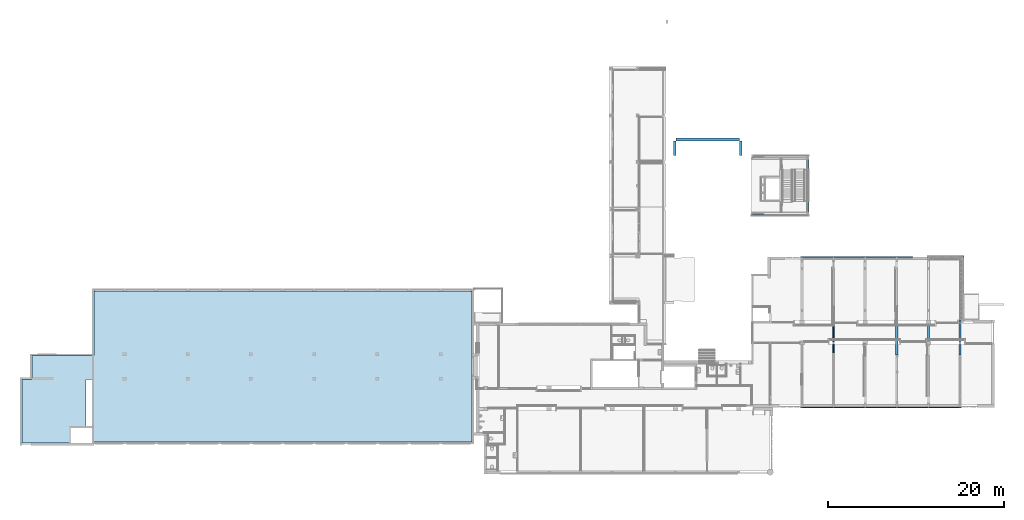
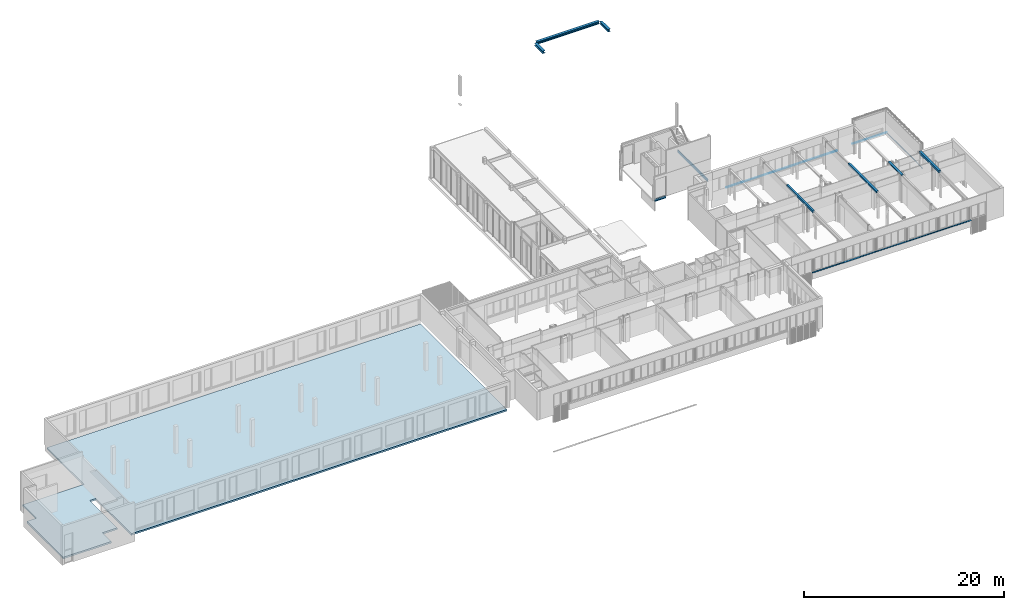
# One storey, part 22 of 99: 13 beams, 1 slab.
"""IFC2X3 building model written with IfcOpenShell, lengths in millimetres."""

from ifc_helpers import new_model, entity, si_unit, converted_unit, derived_unit, money_unit, direction, frame, origin_with_axes, place, context, subcontext, project, spatial, faceted_brep, material, type_object, element, save


model = new_model("IFC2X3")

# Units and contexts
model_context = context("Model", 3, precision=0.01, world=origin_with_axes(), true_north=direction((0.0, 1.0)))
body_context = subcontext(model_context, "Body", "Model", "MODEL_VIEW")
ifc_project = project(units=[si_unit("LENGTHUNIT", "METRE", prefix="MILLI"), si_unit("AREAUNIT", "SQUARE_METRE"), si_unit("VOLUMEUNIT", "CUBIC_METRE"), converted_unit("PLANEANGLEUNIT", "DEGREE", entity("IfcPlaneAngleMeasure", 0.0174532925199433), si_unit("PLANEANGLEUNIT", "RADIAN"), dimensions=[0, 0, 0, 0, 0, 0, 0]), money_unit("EUR"), converted_unit("TIMEUNIT", "Year", entity("IfcTimeMeasure", 31557600.0), si_unit("TIMEUNIT", "SECOND"), dimensions=[0, 0, 1, 0, 0, 0, 0]), si_unit("MASSUNIT", "GRAM", prefix="KILO"), si_unit("THERMODYNAMICTEMPERATUREUNIT", "DEGREE_CELSIUS"), si_unit("LUMINOUSINTENSITYUNIT", "LUMEN"), si_unit("ENERGYUNIT", "JOULE", prefix="MEGA"), derived_unit("THERMALCONDUCTANCEUNIT", [(si_unit("POWERUNIT", "WATT"), 1), (si_unit("LENGTHUNIT", "METRE"), -1), (si_unit("THERMODYNAMICTEMPERATUREUNIT", "KELVIN"), -1)]), derived_unit("SPECIFICHEATCAPACITYUNIT", [(si_unit("ENERGYUNIT", "JOULE"), 1), (si_unit("MASSUNIT", "GRAM", prefix="KILO"), -1), (si_unit("THERMODYNAMICTEMPERATUREUNIT", "KELVIN"), -1)]), derived_unit("MASSDENSITYUNIT", [(si_unit("MASSUNIT", "GRAM", prefix="KILO"), 1), (si_unit("VOLUMEUNIT", "CUBIC_METRE"), -1)])], contexts=[model_context])

# Site, building, storey
site_placement = place(None, origin_with_axes())
site = spatial("IfcSite", under=ifc_project, at=site_placement, Name="Site", CompositionType="ELEMENT")
building_placement = place(site_placement, origin_with_axes())
building = spatial("IfcBuilding", under=site, at=building_placement, Name="Naam gebouw", CompositionType="ELEMENT")
storey_placement = place(building_placement, frame((0.0, 0.0, 7650.0), z_axis=(0.0, 0.0, 1.0), x_axis=(1.0, 0.0, 0.0)))
storey = spatial("IfcBuildingStorey", under=building, at=storey_placement, Name="2e verdieping N", CompositionType="ELEMENT", Elevation=7650.0)

# Beams
ifc_material_1 = material(Name="Metaal - Aluminium")
beam_type_1 = type_object("IfcBeamType", Name="Lekdorpel 107 x 49", PredefinedType="BEAM")
beam_1_placement = place(storey_placement, frame((54330.00000000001, 27835.91242510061, 939.9999999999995), z_axis=(0.0, 0.0, 1.0), x_axis=(0.0, 1.0, 0.0)))
element("IfcBeam", 1, at=beam_1_placement, inside=storey, type_object=beam_type_1, material=ifc_material_1, Name="_Balk-x", ObjectType="BEAM", context=body_context, shape_type="Brep", body=[
    faceted_brep([(27.99999999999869, -28.0000000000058, -1.678199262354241), (27.99999999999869, 3930.000000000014, -1.678199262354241), (27.99999999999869, 3930.000000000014, -16.53589838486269), (27.99999999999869, -28.0000000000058, -16.53589838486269), (-77.00000000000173, 76.99999999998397, 16.83613371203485), (-76.99999999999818, 3930.000000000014, 16.83613371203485), (-76.99999999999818, 3930.000000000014, 28.51433297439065), (-74.99999999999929, 3930.000000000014, 28.51433297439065), (-74.99999999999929, 3930.000000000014, 18.51433297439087), (30.00000000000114, 3930.000000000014, 0.0), (30.00000000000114, 3930.000000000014, -19.99999999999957), (19.99999999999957, 3930.000000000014, -14.22649730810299), (19.99999999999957, 3930.000000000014, -11.91709623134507), (19.99999999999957, -20.00000000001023, -11.91709623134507), (19.99999999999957, -20.00000000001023, -14.22649730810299), (30.00000000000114, -30.00000000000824, -19.99999999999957), (30.00000000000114, -30.00000000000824, 0.0), (-74.99999999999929, 74.99999999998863, 18.51433297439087), (-74.99999999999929, 74.99999999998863, 28.51433297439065), (-77.00000000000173, 76.99999999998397, 28.51433297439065)], [[[0, 1, 2, 3]], [[4, 5, 1, 0]], [[2, 1, 5, 6, 7, 8, 9, 10, 11, 12]], [[3, 2, 12, 13]], [[4, 0, 3, 13, 14, 15, 16, 17, 18, 19]], [[19, 6, 5, 4]], [[18, 7, 6, 19]], [[17, 8, 7, 18]], [[16, 9, 8, 17]], [[15, 10, 9, 16]], [[14, 11, 10, 15]], [[13, 12, 11, 14]]]),
])
beam_2_placement = place(storey_placement, frame((35862.5, 10660.91242510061, 720.0000000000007), z_axis=(0.0, 0.0, 1.0), x_axis=(0.0, -1.0, 0.0)))
element("IfcBeam", 2, at=beam_2_placement, inside=storey, type_object=beam_type_1, material=ifc_material_1, Name="_Balk-x", ObjectType="BEAM", context=body_context, shape_type="Brep", body=[
    faceted_brep([(28.00000000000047, 0.0, -1.678199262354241), (27.99999999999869, 18274.99999999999, -1.678199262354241), (27.99999999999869, 18274.99999999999, -16.53589838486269), (28.00000000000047, 0.0, -16.53589838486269), (-76.99999999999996, 0.0, 16.83613371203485), (-77.00000000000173, 18274.99999999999, 16.83613371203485), (-77.00000000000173, 18274.99999999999, 28.51433297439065), (-75.00000000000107, 18274.99999999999, 28.51433297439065), (-75.00000000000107, 18274.99999999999, 18.51433297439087), (29.99999999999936, 18274.99999999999, 0.0), (29.99999999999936, 18274.99999999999, -19.99999999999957), (19.99999999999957, 18274.99999999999, -14.22649730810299), (19.99999999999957, 18274.99999999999, -11.91709623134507), (19.99999999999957, 0.0, -11.91709623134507), (19.99999999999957, 0.0, -14.22649730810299), (29.99999999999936, 0.0, -19.99999999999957), (29.99999999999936, 0.0, 0.0), (-74.99999999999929, 0.0, 18.51433297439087), (-74.99999999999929, 0.0, 28.51433297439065), (-76.99999999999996, 0.0, 28.51433297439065)], [[[0, 1, 2, 3]], [[4, 5, 1, 0]], [[2, 1, 5, 6, 7, 8, 9, 10, 11, 12]], [[3, 2, 12, 13]], [[4, 0, 3, 13, 14, 15, 16, 17, 18, 19]], [[19, 6, 5, 4]], [[18, 7, 6, 19]], [[17, 8, 7, 18]], [[16, 9, 8, 17]], [[15, 10, 9, 16]], [[14, 11, 10, 15]], [[13, 12, 11, 14]]]),
])
beam_3_placement = place(storey_placement, frame((54330.00000000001, 20655.9124251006, 939.9999999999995), z_axis=(0.0, 0.0, 1.0), x_axis=(1.0, 0.0, 0.0)))
element("IfcBeam", 3, at=beam_3_placement, inside=storey, type_object=beam_type_1, material=ifc_material_1, Name="_Balk-x", ObjectType="BEAM", context=body_context, shape_type="Brep", body=[
    faceted_brep([(27.99999999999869, 0.0, -1.678199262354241), (27.99999999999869, 7207.999999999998, -1.678199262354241), (27.99999999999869, 7207.999999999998, -16.53589838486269), (27.99999999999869, 0.0, -16.53589838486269), (-76.99999999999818, 0.0, 16.83613371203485), (-76.99999999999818, 7102.999999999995, 16.83613371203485), (-76.99999999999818, 7102.999999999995, 28.51433297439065), (-75.00000000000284, 7104.999999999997, 28.51433297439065), (-75.00000000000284, 7104.999999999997, 18.51433297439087), (30.00000000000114, 7209.999999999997, 0.0), (30.00000000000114, 7209.999999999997, -19.99999999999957), (20.00000000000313, 7199.999999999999, -14.22649730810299), (20.00000000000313, 7199.999999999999, -11.91709623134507), (20.00000000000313, 0.0, -11.91709623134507), (20.00000000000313, 0.0, -14.22649730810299), (30.00000000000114, 0.0, -19.99999999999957), (30.00000000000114, 0.0, 0.0), (-75.00000000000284, 0.0, 18.51433297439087), (-75.00000000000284, 0.0, 28.51433297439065), (-76.99999999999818, 0.0, 28.51433297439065)], [[[0, 1, 2, 3]], [[4, 5, 1, 0]], [[2, 1, 5, 6, 7, 8, 9, 10, 11, 12]], [[3, 2, 12, 13]], [[4, 0, 3, 13, 14, 15, 16, 17, 18, 19]], [[19, 6, 5, 4]], [[18, 7, 6, 19]], [[17, 8, 7, 18]], [[16, 9, 8, 17]], [[15, 10, 9, 16]], [[14, 11, 10, 15]], [[13, 12, 11, 14]]]),
])
beam_4_placement = place(storey_placement, frame((48601.18090496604, 27835.91242510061, 719.9999999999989), z_axis=(0.0, 0.0, 1.0), x_axis=(0.0, 1.0, 0.0)))
element("IfcBeam", 4, at=beam_4_placement, inside=storey, type_object=beam_type_1, material=ifc_material_1, Name="_Balk-x", ObjectType="BEAM", context=body_context, shape_type="Brep", body=[
    faceted_brep([(27.99999999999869, 0.0, -1.678199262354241), (28.00000000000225, 12738.68090496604, -1.678199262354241), (28.00000000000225, 12738.68090496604, -16.53589838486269), (27.99999999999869, 0.0, -16.53589838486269), (-77.00000000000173, 0.0, 16.83613371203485), (-76.99999999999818, 12738.68090496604, 16.83613371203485), (-76.99999999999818, 12738.68090496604, 28.51433297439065), (-74.99999999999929, 12738.68090496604, 28.51433297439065), (-74.99999999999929, 12738.68090496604, 18.51433297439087), (30.00000000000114, 12738.68090496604, 0.0), (30.00000000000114, 12738.68090496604, -19.99999999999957), (19.99999999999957, 12738.68090496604, -14.22649730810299), (19.99999999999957, 12738.68090496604, -11.91709623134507), (19.99999999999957, 0.0, -11.91709623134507), (19.99999999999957, 0.0, -14.22649730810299), (30.00000000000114, 0.0, -19.99999999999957), (30.00000000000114, 0.0, 0.0), (-74.99999999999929, 0.0, 18.51433297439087), (-74.99999999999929, 0.0, 28.51433297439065), (-77.00000000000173, 0.0, 28.51433297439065)], [[[0, 1, 2, 3]], [[4, 5, 1, 0]], [[2, 1, 5, 6, 7, 8, 9, 10, 11, 12]], [[3, 2, 12, 13]], [[4, 0, 3, 13, 14, 15, 16, 17, 18, 19]], [[19, 6, 5, 4]], [[18, 7, 6, 19]], [[17, 8, 7, 18]], [[16, 9, 8, 17]], [[15, 10, 9, 16]], [[14, 11, 10, 15]], [[13, 12, 11, 14]]]),
])
ifc_material_2 = material(Name="staal")
beam_type_2 = type_object("IfcBeamType", Name="NLRS_28_SF_staal - balk - UNP:UNP300", PredefinedType="BEAM")
beam_5_placement = place(storey_placement, frame((36706.66666671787, 38965.91242629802, -1879.999999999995), z_axis=(0.0, 0.0, 1.0), x_axis=(-1.0, 0.0, 0.0)))
element("IfcBeam", 5, at=beam_5_placement, inside=storey, type_object=beam_type_2, material=ifc_material_2, Name="NLRS_28_SF_staal - balk - UNP:UNP300", ObjectType="BEAM", context=body_context, shape_type="Brep", body=[
    faceted_brep([(-45.33333333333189, 0.0, 150.0000000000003), (-45.33333333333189, 6039.999999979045, 150.0000000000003), (-45.33333333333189, 6039.999999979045, 144.0999999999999), (-45.33333333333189, 0.0, 144.0999999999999), (54.66666666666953, 0.0, 150.0000000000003), (54.66666666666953, 6039.999999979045, 150.0000000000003), (54.66666666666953, 6039.999999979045, -150.0000000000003), (-45.33333333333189, 6039.999999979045, -150.0000000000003), (-45.33333333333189, 6039.999999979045, -144.0999999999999), (-42.99018758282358, 6039.999999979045, -138.4431457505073), (-37.33333333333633, 6039.999999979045, -136.0999999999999), (28.66666666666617, 6039.999999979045, -132.8000000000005), (36.66666666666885, 6039.999999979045, -130.6564064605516), (42.52307312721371, 6039.999999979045, -124.8000000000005), (44.66666666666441, 6039.999999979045, -116.8000000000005), (44.66666666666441, 6039.999999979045, 116.7999999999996), (42.52307312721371, 6039.999999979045, 124.7999999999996), (36.66666666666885, 6039.999999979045, 130.6564064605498), (28.66666666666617, 6039.999999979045, 132.7999999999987), (-37.33333333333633, 6039.999999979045, 136.1000000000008), (-42.99018758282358, 6039.999999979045, 138.4431457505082), (-42.99018758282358, 0.0, 138.4431457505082), (-37.33333333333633, 0.0, 136.1000000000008), (28.66666666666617, 0.0, 132.7999999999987), (36.66666666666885, 0.0, 130.6564064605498), (42.52307312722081, 0.0, 124.7999999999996), (44.66666666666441, 0.0, 116.7999999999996), (44.66666666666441, 0.0, -116.8000000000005), (42.52307312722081, 0.0, -124.8000000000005), (36.66666666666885, 0.0, -130.6564064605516), (28.66666666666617, 0.0, -132.8000000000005), (-37.33333333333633, 0.0, -136.0999999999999), (-42.99018758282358, 0.0, -138.4431457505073), (-45.33333333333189, 0.0, -144.0999999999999), (-45.33333333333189, 0.0, -150.0000000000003), (54.66666666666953, 0.0, -150.0000000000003)], [[[0, 1, 2, 3]], [[4, 5, 1, 0]], [[2, 1, 5, 6, 7, 8, 9, 10, 11, 12, 13, 14, 15, 16, 17, 18, 19, 20]], [[3, 2, 20, 21]], [[4, 0, 3, 21, 22, 23, 24, 25, 26, 27, 28, 29, 30, 31, 32, 33, 34, 35]], [[35, 6, 5, 4]], [[34, 7, 6, 35]], [[33, 8, 7, 34]], [[32, 9, 8, 33]], [[31, 10, 9, 32]], [[30, 11, 10, 31]], [[29, 12, 11, 30]], [[28, 13, 12, 29]], [[27, 14, 13, 28]], [[26, 15, 14, 27]], [[25, 16, 15, 26]], [[24, 17, 16, 25]], [[23, 18, 17, 24]], [[22, 19, 18, 23]], [[21, 20, 19, 22]]]),
])
beam_6_placement = place(storey_placement, frame((31685.00219855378, 32657.24606858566, -1879.999999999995), z_axis=(0.0, 0.0, 1.0), x_axis=(0.0, 1.0, 0.0)))
element("IfcBeam", 6, at=beam_6_placement, inside=storey, type_object=beam_type_2, material=ifc_material_2, Name="NLRS_28_SF_staal - balk - UNP:UNP300", ObjectType="BEAM", context=body_context, shape_type="Brep", body=[
    faceted_brep([(-45.33333333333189, 0.0, 150.0000000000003), (-45.33333333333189, 1294.002198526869, 150.0000000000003), (-45.33333333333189, 1294.002198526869, 144.0999999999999), (-45.33333333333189, 0.0, 144.0999999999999), (54.66666666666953, 0.0, 150.0000000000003), (54.66666666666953, 1294.002198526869, 150.0000000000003), (54.66666666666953, 1294.002198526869, -150.0000000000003), (-45.33333333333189, 1294.002198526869, -150.0000000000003), (-45.33333333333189, 1294.002198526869, -144.0999999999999), (-42.99018758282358, 1294.002198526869, -138.4431457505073), (-37.33333333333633, 1294.002198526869, -136.0999999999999), (28.66666666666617, 1294.002198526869, -132.8000000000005), (36.66666666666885, 1294.002198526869, -130.6564064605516), (42.52307312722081, 1294.002198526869, -124.8000000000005), (44.66666666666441, 1294.002198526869, -116.8000000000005), (44.66666666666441, 1294.002198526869, 116.7999999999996), (42.52307312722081, 1294.002198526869, 124.7999999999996), (36.66666666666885, 1294.002198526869, 130.6564064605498), (28.66666666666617, 1294.002198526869, 132.7999999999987), (-37.33333333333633, 1294.002198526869, 136.1000000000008), (-42.99018758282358, 1294.002198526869, 138.4431457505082), (-42.99018758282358, 0.0, 138.4431457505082), (-37.33333333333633, 0.0, 136.1000000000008), (28.66666666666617, 0.0, 132.7999999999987), (36.66666666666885, 0.0, 130.6564064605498), (42.52307312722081, 0.0, 124.7999999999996), (44.66666666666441, 0.0, 116.7999999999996), (44.66666666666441, 0.0, -116.8000000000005), (42.52307312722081, 0.0, -124.8000000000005), (36.66666666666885, 0.0, -130.6564064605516), (28.66666666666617, 0.0, -132.8000000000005), (-37.33333333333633, 0.0, -136.0999999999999), (-42.99018758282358, 0.0, -138.4431457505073), (-45.33333333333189, 0.0, -144.0999999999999), (-45.33333333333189, 0.0, -150.0000000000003), (54.66666666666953, 0.0, -150.0000000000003)], [[[0, 1, 2, 3]], [[4, 5, 1, 0]], [[2, 1, 5, 6, 7, 8, 9, 10, 11, 12, 13, 14, 15, 16, 17, 18, 19, 20]], [[3, 2, 20, 21]], [[4, 0, 3, 21, 22, 23, 24, 25, 26, 27, 28, 29, 30, 31, 32, 33, 34, 35]], [[35, 6, 5, 4]], [[34, 7, 6, 35]], [[33, 8, 7, 34]], [[32, 9, 8, 33]], [[31, 10, 9, 32]], [[30, 11, 10, 31]], [[29, 12, 11, 30]], [[28, 13, 12, 29]], [[27, 14, 13, 28]], [[26, 15, 14, 27]], [[25, 16, 15, 26]], [[24, 17, 16, 25]], [[23, 18, 17, 24]], [[22, 19, 18, 23]], [[21, 20, 19, 22]]]),
])
ifc_material_3 = material(Name="ALG - CONSTRUCTIEF KOLOM")
beam_type_3 = type_object("IfcBeamType", Name="ALG - CONSTRUCTIEF KOLOM 250 x 250", PredefinedType="BEAM")
beam_7_placement = place(storey_placement, frame((50399.99999999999, 20575.91242510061, 3299.999999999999), z_axis=(0.0, 0.0, 1.0), x_axis=(-1.0, 0.0, 0.0)))
element("IfcBeam", 7, at=beam_7_placement, inside=storey, type_object=beam_type_3, material=ifc_material_3, Name="_Balk-x", ObjectType="BEAM", context=body_context, shape_type="Brep", body=[
    faceted_brep([(125.0, 0.0, -250.0000000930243), (125.0, 0.0, -100.0000000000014), (-125.0, 0.0, -100.0000000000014), (-125.0, 0.0, -250.0000000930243), (125.0, 2705.000000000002, -250.0000000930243), (125.0, 2705.000000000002, -100.0000000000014), (-125.0, 2705.000000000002, -100.0000000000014), (-125.0, 2705.000000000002, -250.0000000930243)], [[[0, 1, 2, 3]], [[4, 5, 1, 0]], [[5, 6, 2, 1]], [[3, 2, 6, 7]], [[0, 3, 7, 4]], [[7, 6, 5, 4]]]),
])
ifc_material_4 = material(Name="staal geanodiseerd RAL 7024")
beam_type_4 = type_object("IfcBeamType", Name="NLRS_28_SF_LIB_balk HE_generiek_ISR:balk HE_gen_HEB300", PredefinedType="BEAM")
beam_8_placement = place(storey_placement, frame((29019.50000004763, 39369.91242633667, 15199.99999999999), z_axis=(0.0, 0.0, 1.0), x_axis=(1.0, 0.0, 0.0)))
element("IfcBeam", 8, at=beam_8_placement, inside=storey, type_object=beam_type_4, material=ifc_material_4, Name="NLRS_28_SF_LIB_balk HE_generiek_ISR:balk HE_gen_HEB300", ObjectType="BEAM", context=body_context, shape_type="Brep", body=[
    faceted_brep([(-150.0000000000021, 0.0, 150.0000000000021), (-150.0000000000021, 1673.999999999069, 150.0000000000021), (-150.0000000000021, 1673.999999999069, 131.0000000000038), (-150.0000000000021, 0.0, 131.0000000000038), (149.9999999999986, 0.0, 150.0000000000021), (149.9999999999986, 1673.999999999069, 150.0000000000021), (149.9999999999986, 1673.999999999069, 131.0000000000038), (32.50000000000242, 1673.999999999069, 131.0000000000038), (19.0000000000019, 1673.999999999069, 127.3826859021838), (9.11731409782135, 1673.999999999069, 117.4999999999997), (5.49999999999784, 1673.999999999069, 103.9999999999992), (5.49999999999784, 1673.999999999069, -103.9999999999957), (9.11731409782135, 1673.999999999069, -117.4999999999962), (19.0000000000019, 1673.999999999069, -127.3826859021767), (32.50000000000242, 1673.999999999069, -130.9999999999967), (149.9999999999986, 1673.999999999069, -130.9999999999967), (149.9999999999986, 1673.999999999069, -149.9999999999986), (-150.0000000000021, 1673.999999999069, -149.9999999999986), (-150.0000000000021, 1673.999999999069, -130.9999999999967), (-32.50000000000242, 1673.999999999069, -130.9999999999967), (-19.0000000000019, 1673.999999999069, -127.3826859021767), (-9.11731409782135, 1673.999999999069, -117.4999999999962), (-5.500000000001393, 1673.999999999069, -103.9999999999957), (-5.500000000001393, 1673.999999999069, 103.9999999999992), (-9.11731409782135, 1673.999999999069, 117.4999999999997), (-19.0000000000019, 1673.999999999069, 127.3826859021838), (-32.50000000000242, 1673.999999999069, 131.0000000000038), (-32.50000000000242, 0.0, 131.0000000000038), (-19.0000000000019, 0.0, 127.3826859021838), (-9.11731409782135, 0.0, 117.4999999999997), (-5.500000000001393, 0.0, 103.9999999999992), (-5.500000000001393, 0.0, -103.9999999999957), (-9.11731409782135, 0.0, -117.4999999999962), (-19.0000000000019, 0.0, -127.3826859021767), (-32.50000000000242, 0.0, -130.9999999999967), (-150.0000000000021, 0.0, -130.9999999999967), (-150.0000000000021, 0.0, -149.9999999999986), (149.9999999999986, 0.0, -149.9999999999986), (149.9999999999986, 0.0, -130.9999999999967), (32.50000000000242, 0.0, -130.9999999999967), (19.0000000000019, 0.0, -127.3826859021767), (9.11731409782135, 0.0, -117.4999999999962), (5.49999999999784, 0.0, -103.9999999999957), (5.49999999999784, 0.0, 103.9999999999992), (9.11731409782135, 0.0, 117.4999999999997), (19.0000000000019, 0.0, 127.3826859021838), (32.50000000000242, 0.0, 131.0000000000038), (149.9999999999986, 0.0, 131.0000000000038)], [[[0, 1, 2, 3]], [[4, 5, 1, 0]], [[2, 1, 5, 6, 7, 8, 9, 10, 11, 12, 13, 14, 15, 16, 17, 18, 19, 20, 21, 22, 23, 24, 25, 26]], [[3, 2, 26, 27]], [[4, 0, 3, 27, 28, 29, 30, 31, 32, 33, 34, 35, 36, 37, 38, 39, 40, 41, 42, 43, 44, 45, 46, 47]], [[47, 6, 5, 4]], [[46, 7, 6, 47]], [[45, 8, 7, 46]], [[44, 9, 8, 45]], [[43, 10, 9, 44]], [[42, 11, 10, 43]], [[41, 12, 11, 42]], [[40, 13, 12, 41]], [[39, 14, 13, 40]], [[38, 15, 14, 39]], [[37, 16, 15, 38]], [[36, 17, 16, 37]], [[35, 18, 17, 36]], [[34, 19, 18, 35]], [[33, 20, 19, 34]], [[32, 21, 20, 33]], [[31, 22, 21, 32]], [[30, 23, 22, 31]], [[29, 24, 23, 30]], [[28, 25, 24, 29]], [[27, 26, 25, 28]]]),
])
beam_9_placement = place(storey_placement, frame((21513.00000002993, 39369.91242627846, 15199.99999999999), z_axis=(0.0, 0.0, 1.0), x_axis=(1.0, 0.0, 0.0)))
element("IfcBeam", 9, at=beam_9_placement, inside=storey, type_object=beam_type_4, material=ifc_material_4, Name="NLRS_28_SF_LIB_balk HE_generiek_ISR:balk HE_gen_HEB300", ObjectType="BEAM", context=body_context, shape_type="Brep", body=[
    faceted_brep([(-150.0000000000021, 0.0, 150.0000000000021), (-150.0000000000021, 1673.999999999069, 150.0000000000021), (-150.0000000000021, 1673.999999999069, 131.0000000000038), (-150.0000000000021, 0.0, 131.0000000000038), (149.9999999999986, 0.0, 150.0000000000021), (149.9999999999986, 1673.999999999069, 150.0000000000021), (149.9999999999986, 1673.999999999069, 131.0000000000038), (32.50000000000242, 1673.999999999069, 131.0000000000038), (19.0000000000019, 1673.999999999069, 127.3826859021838), (9.11731409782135, 1673.999999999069, 117.4999999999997), (5.49999999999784, 1673.999999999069, 103.9999999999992), (5.49999999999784, 1673.999999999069, -103.9999999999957), (9.11731409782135, 1673.999999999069, -117.4999999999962), (19.0000000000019, 1673.999999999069, -127.3826859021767), (32.50000000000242, 1673.999999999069, -130.9999999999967), (149.9999999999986, 1673.999999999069, -130.9999999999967), (149.9999999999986, 1673.999999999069, -149.9999999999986), (-150.0000000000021, 1673.999999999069, -149.9999999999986), (-150.0000000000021, 1673.999999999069, -130.9999999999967), (-32.50000000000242, 1673.999999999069, -130.9999999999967), (-19.0000000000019, 1673.999999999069, -127.3826859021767), (-9.11731409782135, 1673.999999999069, -117.4999999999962), (-5.500000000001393, 1673.999999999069, -103.9999999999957), (-5.500000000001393, 1673.999999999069, 103.9999999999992), (-9.11731409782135, 1673.999999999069, 117.4999999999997), (-19.0000000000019, 1673.999999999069, 127.3826859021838), (-32.50000000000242, 1673.999999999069, 131.0000000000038), (-32.50000000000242, 0.0, 131.0000000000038), (-19.0000000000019, 0.0, 127.3826859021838), (-9.11731409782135, 0.0, 117.4999999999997), (-5.500000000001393, 0.0, 103.9999999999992), (-5.500000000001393, 0.0, -103.9999999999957), (-9.11731409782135, 0.0, -117.4999999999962), (-19.0000000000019, 0.0, -127.3826859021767), (-32.50000000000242, 0.0, -130.9999999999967), (-150.0000000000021, 0.0, -130.9999999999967), (-150.0000000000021, 0.0, -149.9999999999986), (149.9999999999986, 0.0, -149.9999999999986), (149.9999999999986, 0.0, -130.9999999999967), (32.50000000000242, 0.0, -130.9999999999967), (19.0000000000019, 0.0, -127.3826859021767), (9.11731409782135, 0.0, -117.4999999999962), (5.49999999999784, 0.0, -103.9999999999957), (5.49999999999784, 0.0, 103.9999999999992), (9.11731409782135, 0.0, 117.4999999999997), (19.0000000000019, 0.0, 127.3826859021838), (32.50000000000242, 0.0, 131.0000000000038), (149.9999999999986, 0.0, 131.0000000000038)], [[[0, 1, 2, 3]], [[4, 5, 1, 0]], [[2, 1, 5, 6, 7, 8, 9, 10, 11, 12, 13, 14, 15, 16, 17, 18, 19, 20, 21, 22, 23, 24, 25, 26]], [[3, 2, 26, 27]], [[4, 0, 3, 27, 28, 29, 30, 31, 32, 33, 34, 35, 36, 37, 38, 39, 40, 41, 42, 43, 44, 45, 46, 47]], [[47, 6, 5, 4]], [[46, 7, 6, 47]], [[45, 8, 7, 46]], [[44, 9, 8, 45]], [[43, 10, 9, 44]], [[42, 11, 10, 43]], [[41, 12, 11, 42]], [[40, 13, 12, 41]], [[39, 14, 13, 40]], [[38, 15, 14, 39]], [[37, 16, 15, 38]], [[36, 17, 16, 37]], [[35, 18, 17, 36]], [[34, 19, 18, 35]], [[33, 20, 19, 34]], [[32, 21, 20, 33]], [[31, 22, 21, 32]], [[30, 23, 22, 31]], [[29, 24, 23, 30]], [[28, 25, 24, 29]], [[27, 26, 25, 28]]]),
])
beam_10_placement = place(storey_placement, frame((21662.99999999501, 41193.91242635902, 15199.99999999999), z_axis=(0.0, 0.0, 1.0), x_axis=(0.0, -1.0, 0.0)))
element("IfcBeam", 10, at=beam_10_placement, inside=storey, type_object=beam_type_4, material=ifc_material_4, Name="NLRS_28_SF_LIB_balk HE_generiek_ISR:balk HE_gen_HEB300", ObjectType="BEAM", context=body_context, shape_type="Brep", body=[
    faceted_brep([(-149.9999999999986, 0.0, 150.0000000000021), (-149.9999999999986, 7206.500000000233, 150.0000000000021), (-149.9999999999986, 7206.500000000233, 131.0000000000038), (-149.9999999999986, 0.0, 131.0000000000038), (149.9999999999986, 0.0, 150.0000000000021), (149.9999999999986, 7206.500000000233, 150.0000000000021), (149.9999999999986, 7206.500000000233, 131.0000000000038), (32.49999999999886, 7206.500000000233, 131.0000000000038), (18.99999999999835, 7206.500000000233, 127.3826859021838), (9.11731409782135, 7206.500000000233, 117.4999999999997), (5.49999999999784, 7206.500000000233, 103.9999999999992), (5.49999999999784, 7206.500000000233, -103.9999999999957), (9.11731409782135, 7206.500000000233, -117.4999999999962), (18.99999999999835, 7206.500000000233, -127.3826859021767), (32.49999999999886, 7206.500000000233, -130.9999999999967), (149.9999999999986, 7206.500000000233, -130.9999999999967), (149.9999999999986, 7206.500000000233, -149.9999999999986), (-149.9999999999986, 7206.500000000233, -149.9999999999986), (-149.9999999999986, 7206.500000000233, -130.9999999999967), (-32.50000000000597, 7206.500000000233, -130.9999999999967), (-19.00000000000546, 7206.500000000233, -127.3826859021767), (-9.11731409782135, 7206.500000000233, -117.4999999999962), (-5.49999999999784, 7206.500000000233, -103.9999999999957), (-5.49999999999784, 7206.500000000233, 103.9999999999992), (-9.11731409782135, 7206.500000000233, 117.4999999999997), (-19.00000000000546, 7206.500000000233, 127.3826859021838), (-32.50000000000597, 7206.500000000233, 131.0000000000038), (-32.50000000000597, 0.0, 131.0000000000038), (-18.99999999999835, 0.0, 127.3826859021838), (-9.11731409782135, 0.0, 117.4999999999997), (-5.49999999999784, 0.0, 103.9999999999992), (-5.49999999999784, 0.0, -103.9999999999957), (-9.11731409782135, 0.0, -117.4999999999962), (-18.99999999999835, 0.0, -127.3826859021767), (-32.50000000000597, 0.0, -130.9999999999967), (-149.9999999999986, 0.0, -130.9999999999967), (-149.9999999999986, 0.0, -149.9999999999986), (149.9999999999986, 0.0, -149.9999999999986), (149.9999999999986, 0.0, -130.9999999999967), (32.49999999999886, 0.0, -130.9999999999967), (18.99999999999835, 0.0, -127.3826859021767), (9.11731409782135, 0.0, -117.4999999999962), (5.49999999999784, 0.0, -103.9999999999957), (5.49999999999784, 0.0, 103.9999999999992), (9.11731409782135, 0.0, 117.4999999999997), (18.99999999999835, 0.0, 127.3826859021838), (32.49999999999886, 0.0, 131.0000000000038), (149.9999999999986, 0.0, 131.0000000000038)], [[[0, 1, 2, 3]], [[4, 5, 1, 0]], [[2, 1, 5, 6, 7, 8, 9, 10, 11, 12, 13, 14, 15, 16, 17, 18, 19, 20, 21, 22, 23, 24, 25, 26]], [[3, 2, 26, 27]], [[4, 0, 3, 27, 28, 29, 30, 31, 32, 33, 34, 35, 36, 37, 38, 39, 40, 41, 42, 43, 44, 45, 46, 47]], [[47, 6, 5, 4]], [[46, 7, 6, 47]], [[45, 8, 7, 46]], [[44, 9, 8, 45]], [[43, 10, 9, 44]], [[42, 11, 10, 43]], [[41, 12, 11, 42]], [[40, 13, 12, 41]], [[39, 14, 13, 40]], [[38, 15, 14, 39]], [[37, 16, 15, 38]], [[36, 17, 16, 37]], [[35, 18, 17, 36]], [[34, 19, 18, 35]], [[33, 20, 19, 34]], [[32, 21, 20, 33]], [[31, 22, 21, 32]], [[30, 23, 22, 31]], [[29, 24, 23, 30]], [[28, 25, 24, 29]], [[27, 26, 25, 28]]]),
])
beam_type_5 = type_object("IfcBeamType", Name="ALG - CONSTRUCTIEF KOLOM 250 x 290", PredefinedType="BEAM")
beam_11_placement = place(storey_placement, frame((54000.0, 20575.91242510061, 3199.999999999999), z_axis=(0.0, 0.0, 1.0), x_axis=(-1.0, 0.0, 0.0)))
element("IfcBeam", 11, at=beam_11_placement, inside=storey, type_object=beam_type_5, material=ifc_material_3, Name="_Balk-x", ObjectType="BEAM", context=body_context, shape_type="Brep", body=[
    faceted_brep([(125.0, 0.0, -290.0021947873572), (-125.0, 0.0, -290.0021947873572), (-125.0, 3930.0, -290.0021947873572), (125.0, 3930.0, -290.0021947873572), (125.0, 0.0, 0.0), (-125.0, 0.0, 0.0), (-125.0, 3930.0, 0.0), (125.0, 3930.0, 0.0)], [[[0, 1, 2, 3]], [[4, 5, 1, 0]], [[1, 5, 6, 2]], [[7, 3, 2, 6]], [[4, 0, 3, 7]], [[5, 4, 7, 6]]]),
])
beam_type_6 = type_object("IfcBeamType", Name="ALG - CONSTRUCTIEF KOLOM 200 x 250", PredefinedType="BEAM")
beam_12_placement = place(storey_placement, frame((39599.99999999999, 22175.91242510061, 3199.999999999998), z_axis=(0.0, 0.0, 1.0), x_axis=(-1.0, 0.0, 0.0)))
element("IfcBeam", 12, at=beam_12_placement, inside=storey, type_object=beam_type_6, material=ifc_material_3, Name="_Balk-x", ObjectType="BEAM", context=body_context, shape_type="Brep", body=[
    faceted_brep([(100.0000000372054, 5320.000000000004, -250.0), (100.0000000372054, 0.0, -250.0), (-100.0000000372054, 0.0, -250.0), (-100.0000000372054, 5320.000000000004, -250.0), (100.0000000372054, 5320.000000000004, 0.0), (100.0000000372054, 0.0, 0.0), (-100.0000000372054, 0.0, 0.0), (-100.0000000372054, 5320.000000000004, 0.0)], [[[0, 1, 2, 3]], [[4, 5, 1, 0]], [[1, 5, 6, 2]], [[3, 2, 6, 7]], [[7, 4, 0, 3]], [[7, 6, 5, 4]]]),
])
beam_type_7 = type_object("IfcBeamType", Name="ALG - CONSTRUCTIEF KOLOM 250 x 200", PredefinedType="BEAM")
beam_13_placement = place(storey_placement, frame((46800.00000000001, 22330.91242510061, 3199.999999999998), z_axis=(0.0, 0.0, 1.0), x_axis=(-1.0, 0.0, 0.0)))
element("IfcBeam", 13, at=beam_13_placement, inside=storey, type_object=beam_type_7, material=ifc_material_3, Name="_Balk-x", ObjectType="BEAM", context=body_context, shape_type="Brep", body=[
    faceted_brep([(125.0, 5685.000000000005, -199.9999999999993), (125.0, 0.0, -199.9999999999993), (-125.0, 0.0, -199.9999999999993), (-125.0, 5685.000000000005, -199.9999999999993), (125.0, 5685.000000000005, 0.0), (125.0, 0.0, 0.0), (-125.0, 0.0, 0.0), (-125.0, 5685.000000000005, 0.0)], [[[0, 1, 2, 3]], [[4, 5, 1, 0]], [[1, 5, 6, 2]], [[3, 2, 6, 7]], [[7, 4, 0, 3]], [[7, 6, 5, 4]]]),
])

# Slab
ifc_material_5 = material(Name="ALG - CONSTRUCTIEF VLOER")
slab_type = type_object("IfcSlabType", Name="ALG Vloer 200", PredefinedType="NOTDEFINED")
slab_placement = place(storey_placement, frame((-52799.99999994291, 6621.652687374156, -459.9999999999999), z_axis=(0.0, 0.0, 1.0), x_axis=(1.0, 0.0, 0.0)))
element("IfcSlab", 14, at=slab_placement, inside=storey, type_object=slab_type, material=ifc_material_5, Name="_Vloer-x", PredefinedType="NOTDEFINED", context=body_context, shape_type="Brep", body=[
    faceted_brep([(0.0, 0.0, 0.0), (0.0, 0.0, -200.0000000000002), (5549.999999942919, -6.077662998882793, -200.0000000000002), (5549.999999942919, -6.077662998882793, 0.0), (-6.022560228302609e-08, 7243.922336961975, 0.0), (-6.022560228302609e-08, 7243.922336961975, -200.0000000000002), (1099.999999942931, 7243.92233697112, -200.0000000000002), (1099.999999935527, 9968.922336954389, -200.0000000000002), (8149.999999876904, 9968.922337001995, -200.0000000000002), (8149.999999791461, 17343.92233700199, -200.0000000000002), (51199.9999999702, 17343.92233700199, -200.0000000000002), (51200.0000192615, 143.9389468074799, -200.0000000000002), (7949.966397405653, 143.8871063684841, -200.0000000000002), (7955.394274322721, 7243.922350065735, -200.0000000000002), (7249.999858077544, 7243.922331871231, -200.0000000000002), (7249.999999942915, 1743.852526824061, -200.0000000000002), (5549.999917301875, 1743.852431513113, -200.0000000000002), (5549.999917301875, 1743.852431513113, 0.0), (7249.999999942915, 1743.852526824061, 0.0), (7249.999858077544, 7243.922331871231, 0.0), (7955.394274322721, 7243.922350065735, 0.0), (7949.966397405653, 143.8871063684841, 0.0), (51200.0000192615, 143.9389468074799, 0.0), (51199.9999999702, 17343.92233700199, 0.0), (8149.999999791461, 17343.92233700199, 0.0), (8149.999999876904, 9968.922337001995, 0.0), (1099.999999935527, 9968.922336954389, 0.0), (1099.999999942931, 7243.92233697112, 0.0)], [[[0, 1, 2, 3]], [[4, 5, 1, 0]], [[2, 1, 5, 6, 7, 8, 9, 10, 11, 12, 13, 14, 15, 16]], [[3, 2, 16, 17]], [[4, 0, 3, 17, 18, 19, 20, 21, 22, 23, 24, 25, 26, 27]], [[27, 6, 5, 4]], [[26, 7, 6, 27]], [[25, 8, 7, 26]], [[24, 9, 8, 25]], [[23, 10, 9, 24]], [[22, 11, 10, 23]], [[21, 12, 11, 22]], [[20, 13, 12, 21]], [[19, 14, 13, 20]], [[18, 15, 14, 19]], [[17, 16, 15, 18]]]),
])

save(model, "model.ifc")
